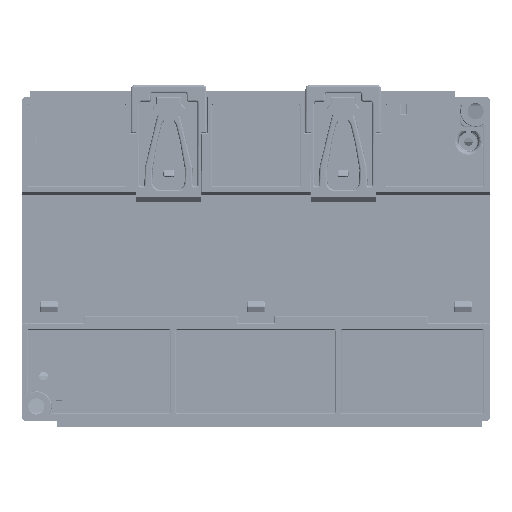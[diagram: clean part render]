
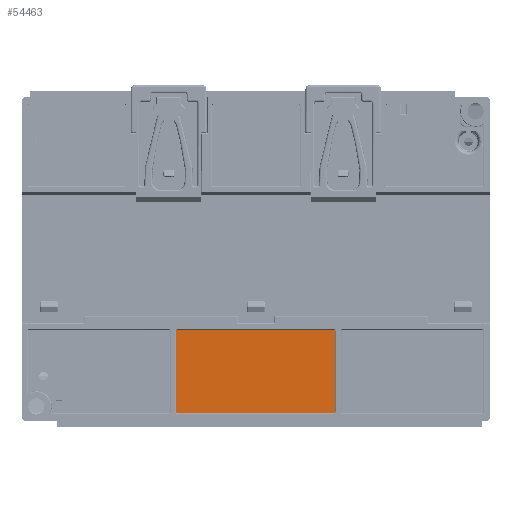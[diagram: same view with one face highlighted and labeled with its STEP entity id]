
A CAD part, front view. The second image highlights one B-rep face of the part: STEP entity #54463.
In plain terms, the highlighted planar face has unit normal (0, -1, 0).
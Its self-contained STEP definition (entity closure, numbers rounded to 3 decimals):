
#54463=ADVANCED_FACE('',(#59868),#173390,.T.);
#59868=FACE_OUTER_BOUND('',#65100,.T.);
#65100=EDGE_LOOP('',(#83859,#83860,#83861,#83862,#83863,#83864,#83865,#83866));
#83859=ORIENTED_EDGE('',*,*,#110039,.T.);
#83860=ORIENTED_EDGE('',*,*,#110046,.T.);
#83861=ORIENTED_EDGE('',*,*,#110045,.T.);
#83862=ORIENTED_EDGE('',*,*,#110044,.T.);
#83863=ORIENTED_EDGE('',*,*,#110043,.T.);
#83864=ORIENTED_EDGE('',*,*,#110042,.T.);
#83865=ORIENTED_EDGE('',*,*,#110041,.T.);
#83866=ORIENTED_EDGE('',*,*,#110040,.T.);
#110039=EDGE_CURVE('',#162390,#162391,#143995,.T.);
#110040=EDGE_CURVE('',#162392,#162390,#131883,.T.);
#110041=EDGE_CURVE('',#162393,#162392,#143996,.T.);
#110042=EDGE_CURVE('',#162394,#162393,#131884,.T.);
#110043=EDGE_CURVE('',#162395,#162394,#143997,.T.);
#110044=EDGE_CURVE('',#162396,#162395,#131885,.T.);
#110045=EDGE_CURVE('',#162397,#162396,#143998,.T.);
#110046=EDGE_CURVE('',#162391,#162397,#131886,.T.);
#131883=B_SPLINE_CURVE_WITH_KNOTS('',1,(#278361,#278362),.UNSPECIFIED.,
 .F.,.F.,(2,2),(-22.65,0.),.UNSPECIFIED.);
#131884=B_SPLINE_CURVE_WITH_KNOTS('',1,(#278366,#278367),.UNSPECIFIED.,
 .F.,.F.,(2,2),(-43.4,0.),.UNSPECIFIED.);
#131885=B_SPLINE_CURVE_WITH_KNOTS('',1,(#278371,#278372),.UNSPECIFIED.,
 .F.,.F.,(2,2),(-22.65,0.),.UNSPECIFIED.);
#131886=B_SPLINE_CURVE_WITH_KNOTS('',1,(#278376,#278377),.UNSPECIFIED.,
 .F.,.F.,(2,2),(-43.4,0.),.UNSPECIFIED.);
#143995=(
BOUNDED_CURVE()
B_SPLINE_CURVE(2,(#278358,#278359,#278360),.UNSPECIFIED.,.F.,.F.)
B_SPLINE_CURVE_WITH_KNOTS((3,3),(-0.471,0.),.UNSPECIFIED.)
CURVE()
GEOMETRIC_REPRESENTATION_ITEM()
RATIONAL_B_SPLINE_CURVE((1.,0.707,1.))
REPRESENTATION_ITEM('')
);
#143996=(
BOUNDED_CURVE()
B_SPLINE_CURVE(2,(#278363,#278364,#278365),.UNSPECIFIED.,.F.,.F.)
B_SPLINE_CURVE_WITH_KNOTS((3,3),(-0.471,0.),.UNSPECIFIED.)
CURVE()
GEOMETRIC_REPRESENTATION_ITEM()
RATIONAL_B_SPLINE_CURVE((1.,0.707,1.))
REPRESENTATION_ITEM('')
);
#143997=(
BOUNDED_CURVE()
B_SPLINE_CURVE(2,(#278368,#278369,#278370),.UNSPECIFIED.,.F.,.F.)
B_SPLINE_CURVE_WITH_KNOTS((3,3),(-0.471,0.),.UNSPECIFIED.)
CURVE()
GEOMETRIC_REPRESENTATION_ITEM()
RATIONAL_B_SPLINE_CURVE((1.,0.707,1.))
REPRESENTATION_ITEM('')
);
#143998=(
BOUNDED_CURVE()
B_SPLINE_CURVE(2,(#278373,#278374,#278375),.UNSPECIFIED.,.F.,.F.)
B_SPLINE_CURVE_WITH_KNOTS((3,3),(-0.471,0.),.UNSPECIFIED.)
CURVE()
GEOMETRIC_REPRESENTATION_ITEM()
RATIONAL_B_SPLINE_CURVE((1.,0.707,1.))
REPRESENTATION_ITEM('')
);
#162390=VERTEX_POINT('',#278350);
#162391=VERTEX_POINT('',#278351);
#162392=VERTEX_POINT('',#278352);
#162393=VERTEX_POINT('',#278353);
#162394=VERTEX_POINT('',#278354);
#162395=VERTEX_POINT('',#278355);
#162396=VERTEX_POINT('',#278356);
#162397=VERTEX_POINT('',#278357);
#173390=PLANE('',#177637);
#177637=AXIS2_PLACEMENT_3D('',#278349,#182044,$);
#182044=DIRECTION('',(0.,-1.,0.));
#278349=CARTESIAN_POINT('',(26.498,-38.,-17.127));
#278350=CARTESIAN_POINT('',(-22.1,-38.,-42.6));
#278351=CARTESIAN_POINT('',(-21.8,-38.,-42.9));
#278352=CARTESIAN_POINT('',(-22.1,-38.,-19.95));
#278353=CARTESIAN_POINT('',(-21.8,-38.,-19.65));
#278354=CARTESIAN_POINT('',(21.6,-38.,-19.65));
#278355=CARTESIAN_POINT('',(21.9,-38.,-19.95));
#278356=CARTESIAN_POINT('',(21.9,-38.,-42.6));
#278357=CARTESIAN_POINT('',(21.6,-38.,-42.9));
#278358=CARTESIAN_POINT('',(-22.1,-38.,-42.6));
#278359=CARTESIAN_POINT('',(-22.1,-38.,-42.9));
#278360=CARTESIAN_POINT('',(-21.8,-38.,-42.9));
#278361=CARTESIAN_POINT('',(-22.1,-38.,-19.95));
#278362=CARTESIAN_POINT('',(-22.1,-38.,-42.6));
#278363=CARTESIAN_POINT('',(-21.8,-38.,-19.65));
#278364=CARTESIAN_POINT('',(-22.1,-38.,-19.65));
#278365=CARTESIAN_POINT('',(-22.1,-38.,-19.95));
#278366=CARTESIAN_POINT('',(21.6,-38.,-19.65));
#278367=CARTESIAN_POINT('',(-21.8,-38.,-19.65));
#278368=CARTESIAN_POINT('',(21.9,-38.,-19.95));
#278369=CARTESIAN_POINT('',(21.9,-38.,-19.65));
#278370=CARTESIAN_POINT('',(21.6,-38.,-19.65));
#278371=CARTESIAN_POINT('',(21.9,-38.,-42.6));
#278372=CARTESIAN_POINT('',(21.9,-38.,-19.95));
#278373=CARTESIAN_POINT('',(21.6,-38.,-42.9));
#278374=CARTESIAN_POINT('',(21.9,-38.,-42.9));
#278375=CARTESIAN_POINT('',(21.9,-38.,-42.6));
#278376=CARTESIAN_POINT('',(-21.8,-38.,-42.9));
#278377=CARTESIAN_POINT('',(21.6,-38.,-42.9));
